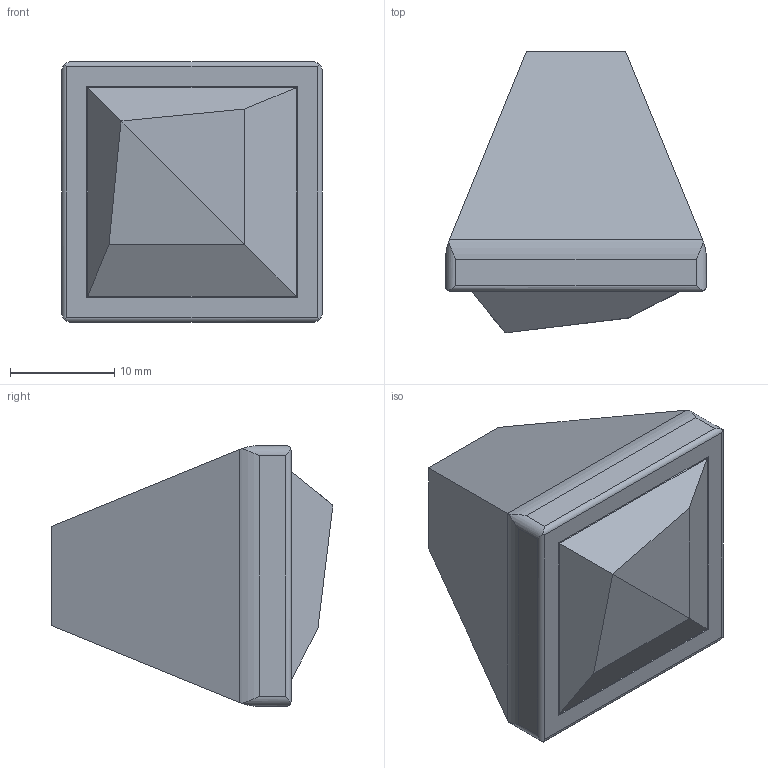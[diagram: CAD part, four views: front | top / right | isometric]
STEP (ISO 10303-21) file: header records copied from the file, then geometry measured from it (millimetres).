
FILE_DESCRIPTION( ( '' ), '1' );
FILE_NAME( 'C:/Documents and Settings/Nikhil/Desktop/Nik/Done/9113695.stp', '2013-10-23T10:45:00', ( '' ), ( '' ), ' ', ' ', ' ' );
FILE_SCHEMA( ( 'automotive_design' ) );
Length unit declared in the file: millimetre
Products named in the file (1): 1
Bounding box: 25 x 27 x 25 mm (x, y, z)
Volume: 9178.8 mm3; surface area: 2744.8 mm2
Topology: 1 solids, 1 shells, 40 faces, 95 edges, 60 vertices
Faces by surface type: plane 26, cylinder 14
Entity records: 2338 total; most frequent: CARTESIAN_POINT 316, STYLED_ITEM 196, PRESENTATION_STYLE_ASSIGNMENT 196, COLOUR_RGB 196, ORIENTED_EDGE 190, DIRECTION 173, EDGE_CURVE 95, CURVE_STYLE 95
